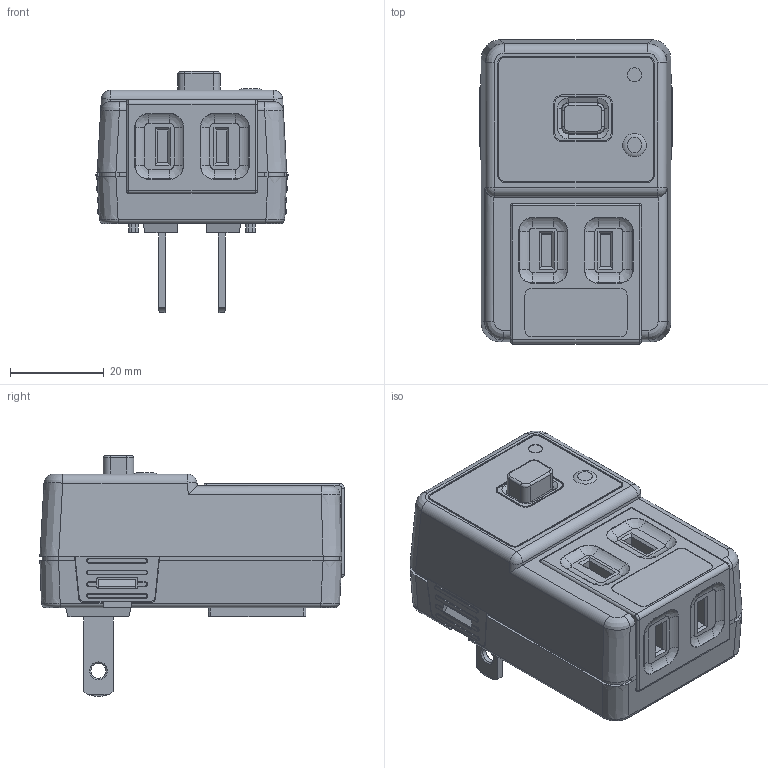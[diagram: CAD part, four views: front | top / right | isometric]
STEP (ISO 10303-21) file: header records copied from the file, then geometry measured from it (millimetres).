
FILE_DESCRIPTION(/* description */ (''),/* implementation_level */ '2;1');
FILE_NAME(/* name */ '11_kd-l2115pd_141029.stp',/* time_stamp */ '2014-10-29T10:38:49+09:00',/* author */ (''),/* organization */ (''),/* preprocessor_version */ 'ST-DEVELOPER v14',/* originating_system */ 'SIEMENS PLM Software NX 8.0',/* authorisation */ '');
FILE_SCHEMA (('AP203_CONFIGURATION_CONTROLLED_3D_DESIGN_OF_MECHANICAL_PARTS_AND_ASSEMBLIES_MIM_LF { 1 0 10303 403 2 1 2}'));
Length unit declared in the file: millimetre
Products named in the file (1): as1808DC4DA56irg
Bounding box: 41.04 x 65 x 51.5 mm (x, y, z)
Volume: 69794.3 mm3; surface area: 12275.9 mm2
Topology: 1 solids, 1 shells, 483 faces, 1197 edges, 741 vertices
Faces by surface type: plane 222, cylinder 162, bspline 60, torus 29, sphere 6, cone 4
Full cylindrical faces by diameter (mm): 3 x1, 3.2 x2
Entity records: 16332 total; most frequent: CARTESIAN_POINT 4930, ORIENTED_EDGE 2364, DIRECTION 2348, EDGE_CURVE 1182, AXIS2_PLACEMENT_3D 826, VERTEX_POINT 740, LINE 696, VECTOR 696
